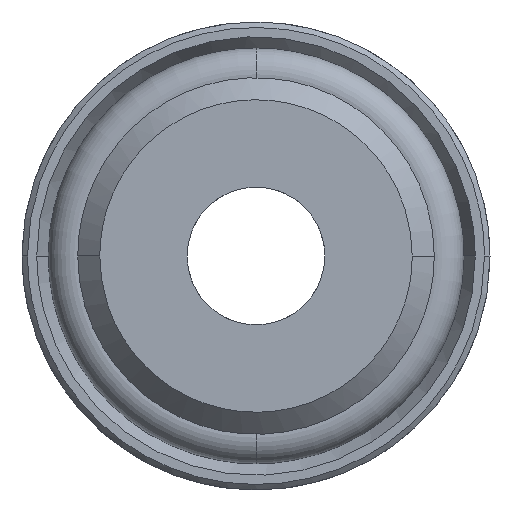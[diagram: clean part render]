
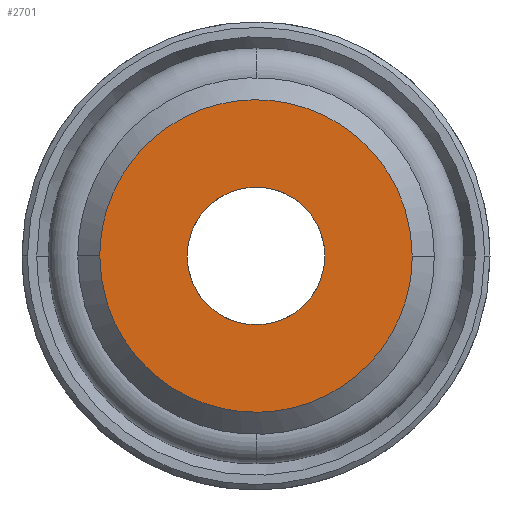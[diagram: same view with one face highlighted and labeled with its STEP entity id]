
A CAD part, front view. The second image highlights one B-rep face of the part: STEP entity #2701.
In plain terms, the highlighted planar face has unit normal (0, -1, 0).
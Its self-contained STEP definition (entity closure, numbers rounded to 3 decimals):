
#40 = CARTESIAN_POINT ( 'NONE',  ( -2.5, 0., -0.332 ) ) ;
#66 = CARTESIAN_POINT ( 'NONE',  ( 5.675, 0., -0.745 ) ) ;
#68 = CARTESIAN_POINT ( 'NONE',  ( 1.534, 0., 2.002 ) ) ;
#82 = CARTESIAN_POINT ( 'NONE',  ( 3.486, 0., -4.539 ) ) ;
#116 = CARTESIAN_POINT ( 'NONE',  ( -4.539, 0., 3.486 ) ) ;
#149 = EDGE_CURVE ( 'NONE', #2899, #3102, #870, .T. ) ;
#189 = ORIENTED_EDGE ( 'NONE', *, *, #1743, .T. ) ;
#212 = CARTESIAN_POINT ( 'NONE',  ( -2.436, 0., 0.651 ) ) ;
#224 = ORIENTED_EDGE ( 'NONE', *, *, #1042, .T. ) ;
#259 = CARTESIAN_POINT ( 'NONE',  ( 2.5, 0., -0.331 ) ) ;
#272 = CARTESIAN_POINT ( 'NONE',  ( -2.5, 0., 0. ) ) ;
#298 = CARTESIAN_POINT ( 'NONE',  ( -0.651, 0., -2.436 ) ) ;
#308 = EDGE_LOOP ( 'NONE', ( #2757, #224 ) ) ;
#309 = CARTESIAN_POINT ( 'NONE',  ( -4.958, 0., -2.86 ) ) ;
#314 = CARTESIAN_POINT ( 'NONE',  ( -5.675, 0., 0. ) ) ;
#322 = CARTESIAN_POINT ( 'NONE',  ( 4.958, 0., -2.86 ) ) ;
#352 = CARTESIAN_POINT ( 'NONE',  ( 2.86, 0., -4.958 ) ) ;
#358 = CARTESIAN_POINT ( 'NONE',  ( -3.486, 0., 4.539 ) ) ;
#449 = CARTESIAN_POINT ( 'NONE',  ( -2.5, 0., 0. ) ) ;
#495 = CARTESIAN_POINT ( 'NONE',  ( 2.5, 0., 0. ) ) ;
#506 = DIRECTION ( 'NONE',  ( 0., 0., -1. ) ) ;
#537 = CARTESIAN_POINT ( 'NONE',  ( -0.651, 0., 2.436 ) ) ;
#554 = CARTESIAN_POINT ( 'NONE',  ( 2.002, 0., 1.534 ) ) ;
#569 = CARTESIAN_POINT ( 'NONE',  ( 4.958, 0., 2.86 ) ) ;
#580 = CARTESIAN_POINT ( 'NONE',  ( 0.745, 0., -5.675 ) ) ;
#599 = CARTESIAN_POINT ( 'NONE',  ( 5.675, 0., 0. ) ) ;
#660 = ORIENTED_EDGE ( 'NONE', *, *, #149, .T. ) ;
#719 = CARTESIAN_POINT ( 'NONE',  ( -1.263, 0., 2.183 ) ) ;
#729 = FACE_OUTER_BOUND ( 'NONE', #3008, .T. ) ;
#734 = CARTESIAN_POINT ( 'NONE',  ( -0.331, 0., 2.5 ) ) ;
#784 = CARTESIAN_POINT ( 'NONE',  ( -5.675, 0., 0. ) ) ;
#786 = CARTESIAN_POINT ( 'NONE',  ( 1.263, 0., -2.183 ) ) ;
#788 = CARTESIAN_POINT ( 'NONE',  ( -5.675, 0., 0.746 ) ) ;
#800 = CARTESIAN_POINT ( 'NONE',  ( 1.484, 0., -5.528 ) ) ;
#832 = CARTESIAN_POINT ( 'NONE',  ( 5.675, 0., 0.745 ) ) ;
#870 = B_SPLINE_CURVE_WITH_KNOTS ( 'NONE', 3,
 ( #784, #1502, #1281, #309, #1760, #2744, #2998, #3030, #2499, #580, #800, #352, #82, #1519, #322, #2290, #66, #1324 ),
 .UNSPECIFIED., .F., .F.,
 ( 4, 2, 2, 2, 2, 2, 2, 2, 4 ),
 ( 0., 0.062, 0.125, 0.188, 0.25, 0.313, 0.375, 0.438, 0.5 ),
 .UNSPECIFIED. ) ;
#950 = FACE_BOUND ( 'NONE', #308, .T. ) ;
#1014 = CARTESIAN_POINT ( 'NONE',  ( -0.331, 0., -2.5 ) ) ;
#1025 = CARTESIAN_POINT ( 'NONE',  ( 2.183, 0., -1.263 ) ) ;
#1034 = EDGE_CURVE ( 'NONE', #2992, #2887, #2944, .T. ) ;
#1039 = CARTESIAN_POINT ( 'NONE',  ( 0.331, 0., -2.5 ) ) ;
#1042 = EDGE_CURVE ( 'NONE', #2887, #2992, #1410, .T. ) ;
#1072 = CARTESIAN_POINT ( 'NONE',  ( 2.86, 0., 4.958 ) ) ;
#1084 = CARTESIAN_POINT ( 'NONE',  ( 5.528, 0., 1.484 ) ) ;
#1086 = CARTESIAN_POINT ( 'NONE',  ( -5.675, 0., 0. ) ) ;
#1175 = CARTESIAN_POINT ( 'NONE',  ( -2.002, 0., 1.534 ) ) ;
#1227 = CARTESIAN_POINT ( 'NONE',  ( 1.534, 0., -2.002 ) ) ;
#1249 = DIRECTION ( 'NONE',  ( 0., -1., 0. ) ) ;
#1281 = CARTESIAN_POINT ( 'NONE',  ( -5.528, 0., -1.484 ) ) ;
#1298 = CARTESIAN_POINT ( 'NONE',  ( 4.539, 0., 3.486 ) ) ;
#1324 = CARTESIAN_POINT ( 'NONE',  ( 5.675, 0., 0. ) ) ;
#1410 = B_SPLINE_CURVE_WITH_KNOTS ( 'NONE', 3,
 ( #2448, #259, #1521, #1025, #2946, #1227, #786, #2717, #1039, #1014, #298, #1463, #1992, #1505, #2960, #2225, #40, #272 ),
 .UNSPECIFIED., .F., .F.,
 ( 4, 2, 2, 2, 2, 2, 2, 2, 4 ),
 ( 0.5, 0.563, 0.625, 0.688, 0.75, 0.813, 0.875, 0.938, 1. ),
 .UNSPECIFIED. ) ;
#1463 = CARTESIAN_POINT ( 'NONE',  ( -1.263, 0., -2.183 ) ) ;
#1502 = CARTESIAN_POINT ( 'NONE',  ( -5.675, 0., -0.745 ) ) ;
#1505 = CARTESIAN_POINT ( 'NONE',  ( -2.002, 0., -1.534 ) ) ;
#1519 = CARTESIAN_POINT ( 'NONE',  ( 4.539, 0., -3.486 ) ) ;
#1521 = CARTESIAN_POINT ( 'NONE',  ( 2.436, 0., -0.651 ) ) ;
#1565 = CARTESIAN_POINT ( 'NONE',  ( 0.745, 0., 5.675 ) ) ;
#1580 = CARTESIAN_POINT ( 'NONE',  ( -4.958, 0., 2.86 ) ) ;
#1720 = CARTESIAN_POINT ( 'NONE',  ( -2.5, 0., 0. ) ) ;
#1743 = EDGE_CURVE ( 'NONE', #3102, #2899, #3024, .T. ) ;
#1760 = CARTESIAN_POINT ( 'NONE',  ( -4.539, 0., -3.486 ) ) ;
#1762 = CARTESIAN_POINT ( 'NONE',  ( 2.436, 0., 0.651 ) ) ;
#1806 = CARTESIAN_POINT ( 'NONE',  ( 1.484, 0., 5.528 ) ) ;
#1823 = CARTESIAN_POINT ( 'NONE',  ( -2.86, 0., 4.958 ) ) ;
#1860 = AXIS2_PLACEMENT_3D ( 'NONE', #2655, #1249, #506 ) ;
#1964 = CARTESIAN_POINT ( 'NONE',  ( 0.331, 0., 2.5 ) ) ;
#1975 = CARTESIAN_POINT ( 'NONE',  ( 1.263, 0., 2.183 ) ) ;
#1976 = CARTESIAN_POINT ( 'NONE',  ( 5.675, 0., 0. ) ) ;
#1992 = CARTESIAN_POINT ( 'NONE',  ( -1.534, 0., -2.002 ) ) ;
#2008 = CARTESIAN_POINT ( 'NONE',  ( -1.484, 0., 5.528 ) ) ;
#2071 = CARTESIAN_POINT ( 'NONE',  ( 2.5, 0., 0. ) ) ;
#2186 = PLANE ( 'NONE',  #1860 ) ;
#2213 = CARTESIAN_POINT ( 'NONE',  ( 2.5, 0., 0.331 ) ) ;
#2225 = CARTESIAN_POINT ( 'NONE',  ( -2.437, 0., -0.651 ) ) ;
#2237 = CARTESIAN_POINT ( 'NONE',  ( 2.183, 0., 1.263 ) ) ;
#2290 = CARTESIAN_POINT ( 'NONE',  ( 5.528, 0., -1.484 ) ) ;
#2405 = CARTESIAN_POINT ( 'NONE',  ( -2.5, 0., 0.331 ) ) ;
#2448 = CARTESIAN_POINT ( 'NONE',  ( 2.5, 0., 0. ) ) ;
#2499 = CARTESIAN_POINT ( 'NONE',  ( -0.745, 0., -5.675 ) ) ;
#2551 = CARTESIAN_POINT ( 'NONE',  ( -0.745, 0., 5.675 ) ) ;
#2655 = CARTESIAN_POINT ( 'NONE',  ( -4.088, 0., 0. ) ) ;
#2661 = CARTESIAN_POINT ( 'NONE',  ( -1.534, 0., 2.002 ) ) ;
#2701 = ADVANCED_FACE ( 'NONE', ( #950, #729 ), #2186, .T. ) ;
#2717 = CARTESIAN_POINT ( 'NONE',  ( 0.651, 0., -2.436 ) ) ;
#2744 = CARTESIAN_POINT ( 'NONE',  ( -3.486, 0., -4.539 ) ) ;
#2757 = ORIENTED_EDGE ( 'NONE', *, *, #1034, .T. ) ;
#2812 = CARTESIAN_POINT ( 'NONE',  ( 3.486, 0., 4.539 ) ) ;
#2887 = VERTEX_POINT ( 'NONE', #2071 ) ;
#2899 = VERTEX_POINT ( 'NONE', #1086 ) ;
#2917 = CARTESIAN_POINT ( 'NONE',  ( -2.183, 0., 1.263 ) ) ;
#2944 = B_SPLINE_CURVE_WITH_KNOTS ( 'NONE', 3,
 ( #449, #2405, #212, #2917, #1175, #2661, #719, #537, #734, #1964, #2985, #1975, #68, #554, #2237, #1762, #2213, #495 ),
 .UNSPECIFIED., .F., .F.,
 ( 4, 2, 2, 2, 2, 2, 2, 2, 4 ),
 ( 0., 0.062, 0.125, 0.187, 0.25, 0.312, 0.375, 0.438, 0.5 ),
 .UNSPECIFIED. ) ;
#2946 = CARTESIAN_POINT ( 'NONE',  ( 2.002, 0., -1.534 ) ) ;
#2960 = CARTESIAN_POINT ( 'NONE',  ( -2.183, 0., -1.263 ) ) ;
#2985 = CARTESIAN_POINT ( 'NONE',  ( 0.651, 0., 2.436 ) ) ;
#2988 = CARTESIAN_POINT ( 'NONE',  ( -5.528, 0., 1.484 ) ) ;
#2992 = VERTEX_POINT ( 'NONE', #1720 ) ;
#2998 = CARTESIAN_POINT ( 'NONE',  ( -2.86, 0., -4.958 ) ) ;
#3008 = EDGE_LOOP ( 'NONE', ( #660, #189 ) ) ;
#3024 = B_SPLINE_CURVE_WITH_KNOTS ( 'NONE', 3,
 ( #599, #832, #1084, #569, #1298, #2812, #1072, #1806, #1565, #2551, #2008, #1823, #358, #116, #1580, #2988, #788, #314 ),
 .UNSPECIFIED., .F., .F.,
 ( 4, 2, 2, 2, 2, 2, 2, 2, 4 ),
 ( 0.5, 0.563, 0.625, 0.688, 0.75, 0.813, 0.875, 0.938, 1. ),
 .UNSPECIFIED. ) ;
#3030 = CARTESIAN_POINT ( 'NONE',  ( -1.484, 0., -5.528 ) ) ;
#3102 = VERTEX_POINT ( 'NONE', #1976 ) ;
